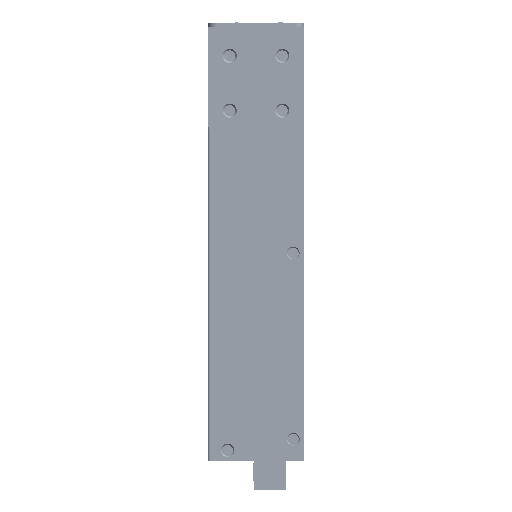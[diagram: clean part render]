
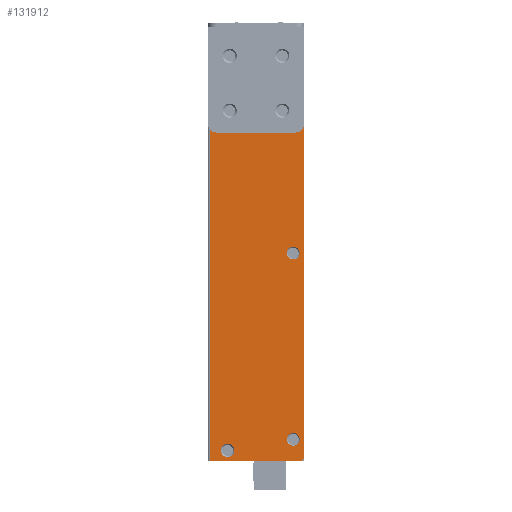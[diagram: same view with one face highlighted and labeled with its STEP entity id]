
A CAD part, left-side view. The second image highlights one B-rep face of the part: STEP entity #131912.
In plain terms, the highlighted planar face has unit normal (-1, 0, 0).
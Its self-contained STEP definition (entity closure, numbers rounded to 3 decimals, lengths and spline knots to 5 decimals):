
#2957=CIRCLE('',#140065,0.0022);
#2963=CIRCLE('',#140076,0.0022);
#2966=CIRCLE('',#140081,0.0031);
#2969=CIRCLE('',#140086,0.0029);
#2972=CIRCLE('',#140091,0.0029);
#2975=CIRCLE('',#140096,0.0029);
#2977=CIRCLE('',#140099,0.002);
#2979=CIRCLE('',#140102,0.002);
#2981=CIRCLE('',#140108,0.002);
#8053=ORIENTED_EDGE('',*,*,#46823,.F.);
#8054=ORIENTED_EDGE('',*,*,#46829,.F.);
#8055=ORIENTED_EDGE('',*,*,#46832,.F.);
#8056=ORIENTED_EDGE('',*,*,#46835,.F.);
#8057=ORIENTED_EDGE('',*,*,#46838,.F.);
#8058=ORIENTED_EDGE('',*,*,#46841,.F.);
#8059=ORIENTED_EDGE('',*,*,#46843,.F.);
#8060=ORIENTED_EDGE('',*,*,#46845,.F.);
#8061=ORIENTED_EDGE('',*,*,#46854,.F.);
#8062=ORIENTED_EDGE('',*,*,#46850,.F.);
#8063=ORIENTED_EDGE('',*,*,#46846,.T.);
#8064=ORIENTED_EDGE('',*,*,#46859,.F.);
#8065=ORIENTED_EDGE('',*,*,#46860,.F.);
#8066=ORIENTED_EDGE('',*,*,#46861,.T.);
#8067=ORIENTED_EDGE('',*,*,#46862,.F.);
#8068=ORIENTED_EDGE('',*,*,#46858,.F.);
#46823=EDGE_CURVE('',#66306,#66306,#2957,.T.);
#46829=EDGE_CURVE('',#66312,#66312,#2963,.T.);
#46832=EDGE_CURVE('',#66315,#66315,#2966,.T.);
#46835=EDGE_CURVE('',#66318,#66318,#2969,.T.);
#46838=EDGE_CURVE('',#66321,#66321,#2972,.T.);
#46841=EDGE_CURVE('',#66324,#66324,#2975,.T.);
#46843=EDGE_CURVE('',#66326,#66326,#2977,.T.);
#46845=EDGE_CURVE('',#66328,#66328,#2979,.T.);
#46846=EDGE_CURVE('',#66329,#66330,#79338,.T.);
#46850=EDGE_CURVE('',#66329,#66333,#79342,.T.);
#46854=EDGE_CURVE('',#66333,#66336,#79346,.T.);
#46858=EDGE_CURVE('',#66336,#66338,#2981,.T.);
#46859=EDGE_CURVE('',#66339,#66330,#79349,.T.);
#46860=EDGE_CURVE('',#66340,#66339,#79350,.T.);
#46861=EDGE_CURVE('',#66340,#66341,#79351,.T.);
#46862=EDGE_CURVE('',#66338,#66341,#79352,.T.);
#66306=VERTEX_POINT('',#190900);
#66312=VERTEX_POINT('',#190917);
#66315=VERTEX_POINT('',#190925);
#66318=VERTEX_POINT('',#190933);
#66321=VERTEX_POINT('',#190941);
#66324=VERTEX_POINT('',#190949);
#66326=VERTEX_POINT('',#190954);
#66328=VERTEX_POINT('',#190959);
#66329=VERTEX_POINT('',#190962);
#66330=VERTEX_POINT('',#190963);
#66333=VERTEX_POINT('',#190971);
#66336=VERTEX_POINT('',#190979);
#66338=VERTEX_POINT('',#190984);
#66339=VERTEX_POINT('',#190989);
#66340=VERTEX_POINT('',#190991);
#66341=VERTEX_POINT('',#190993);
#79338=LINE('',#190961,#94568);
#79342=LINE('',#190970,#94572);
#79346=LINE('',#190978,#94576);
#79349=LINE('',#190988,#94579);
#79350=LINE('',#190990,#94580);
#79351=LINE('',#190992,#94581);
#79352=LINE('',#190994,#94582);
#94568=VECTOR('',#152467,1.);
#94572=VECTOR('',#152473,1.);
#94576=VECTOR('',#152479,1.);
#94579=VECTOR('',#152490,1.);
#94580=VECTOR('',#152491,1.);
#94581=VECTOR('',#152492,1.);
#94582=VECTOR('',#152493,1.);
#109762=EDGE_LOOP('',(#8053));
#109763=EDGE_LOOP('',(#8054));
#109764=EDGE_LOOP('',(#8055));
#109765=EDGE_LOOP('',(#8056));
#109766=EDGE_LOOP('',(#8057));
#109767=EDGE_LOOP('',(#8058));
#109768=EDGE_LOOP('',(#8059));
#109769=EDGE_LOOP('',(#8060));
#109770=EDGE_LOOP('',(#8061,#8062,#8063,#8064,#8065,#8066,#8067,#8068));
#118340=FACE_BOUND('',#109762,.T.);
#118341=FACE_BOUND('',#109763,.T.);
#118342=FACE_BOUND('',#109764,.T.);
#118343=FACE_BOUND('',#109765,.T.);
#118344=FACE_BOUND('',#109766,.T.);
#118345=FACE_BOUND('',#109767,.T.);
#118346=FACE_BOUND('',#109768,.T.);
#118347=FACE_BOUND('',#109769,.T.);
#118348=FACE_BOUND('',#109770,.T.);
#126747=PLANE('',#140109);
#131912=ADVANCED_FACE('',(#118340,#118341,#118342,#118343,#118344,#118345,
#118346,#118347,#118348),#126747,.T.);
#140065=AXIS2_PLACEMENT_3D('',#190899,#152389,#152390);
#140076=AXIS2_PLACEMENT_3D('',#190916,#152411,#152412);
#140081=AXIS2_PLACEMENT_3D('',#190924,#152421,#152422);
#140086=AXIS2_PLACEMENT_3D('',#190932,#152431,#152432);
#140091=AXIS2_PLACEMENT_3D('',#190940,#152441,#152442);
#140096=AXIS2_PLACEMENT_3D('',#190948,#152451,#152452);
#140099=AXIS2_PLACEMENT_3D('',#190953,#152457,#152458);
#140102=AXIS2_PLACEMENT_3D('',#190958,#152463,#152464);
#140108=AXIS2_PLACEMENT_3D('',#190986,#152486,#152487);
#140109=AXIS2_PLACEMENT_3D('',#190987,#152488,#152489);
#152389=DIRECTION('',(-1.,0.,0.));
#152390=DIRECTION('',(0.,0.,-1.));
#152411=DIRECTION('',(-1.,0.,0.));
#152412=DIRECTION('',(0.,0.,-1.));
#152421=DIRECTION('',(-1.,0.,0.));
#152422=DIRECTION('',(0.,0.,-1.));
#152431=DIRECTION('',(-1.,0.,0.));
#152432=DIRECTION('',(0.,0.,1.));
#152441=DIRECTION('',(-1.,0.,0.));
#152442=DIRECTION('',(0.,0.,1.));
#152451=DIRECTION('',(-1.,0.,0.));
#152452=DIRECTION('',(0.,0.,-1.));
#152457=DIRECTION('',(-1.,0.,0.));
#152458=DIRECTION('',(0.,0.,1.));
#152463=DIRECTION('',(-1.,0.,0.));
#152464=DIRECTION('',(0.,0.,1.));
#152467=DIRECTION('',(0.,0.,1.));
#152473=DIRECTION('',(0.,-1.,0.));
#152479=DIRECTION('',(0.,0.,-1.));
#152486=DIRECTION('',(1.,0.,0.));
#152487=DIRECTION('',(0.,-1.,0.));
#152488=DIRECTION('',(-1.,0.,0.));
#152489=DIRECTION('',(0.,0.,-1.));
#152490=DIRECTION('',(0.,-0.707,-0.707));
#152491=DIRECTION('',(0.,-1.,0.));
#152492=DIRECTION('',(0.,0.,-1.));
#152493=DIRECTION('',(0.,1.,0.));
#190899=CARTESIAN_POINT('',(-0.22,0.034,0.065));
#190900=CARTESIAN_POINT('',(-0.22,0.034,0.0628));
#190916=CARTESIAN_POINT('',(-0.22,0.034,0.09));
#190917=CARTESIAN_POINT('',(-0.22,0.034,0.0878));
#190924=CARTESIAN_POINT('',(-0.22,0.035,-0.09));
#190925=CARTESIAN_POINT('',(-0.22,0.035,-0.0931));
#190932=CARTESIAN_POINT('',(-0.22,0.005,-0.085));
#190933=CARTESIAN_POINT('',(-0.22,0.005,-0.0821));
#190940=CARTESIAN_POINT('',(-0.22,0.005,0.));
#190941=CARTESIAN_POINT('',(-0.22,0.005,0.0029));
#190948=CARTESIAN_POINT('',(-0.22,0.005,0.085));
#190949=CARTESIAN_POINT('',(-0.22,0.005,0.0821));
#190953=CARTESIAN_POINT('',(-0.22,0.01,0.09));
#190954=CARTESIAN_POINT('',(-0.22,0.01,0.092));
#190958=CARTESIAN_POINT('',(-0.22,0.01,0.065));
#190959=CARTESIAN_POINT('',(-0.22,0.01,0.067));
#190961=CARTESIAN_POINT('',(-0.22,0.0011,0.0949));
#190962=CARTESIAN_POINT('',(-0.22,0.0011,0.0949));
#190963=CARTESIAN_POINT('',(-0.22,0.0011,0.1037));
#190970=CARTESIAN_POINT('',(-0.22,0.0011,0.0949));
#190971=CARTESIAN_POINT('',(-0.22,0.,0.0949));
#190978=CARTESIAN_POINT('',(-0.22,0.,0.0949));
#190979=CARTESIAN_POINT('',(-0.22,0.,-0.093));
#190984=CARTESIAN_POINT('',(-0.22,0.002,-0.095));
#190986=CARTESIAN_POINT('',(-0.22,0.002,-0.093));
#190987=CARTESIAN_POINT('',(-0.22,0.044,-0.095));
#190988=CARTESIAN_POINT('',(-0.22,0.0014,0.104));
#190989=CARTESIAN_POINT('',(-0.22,0.00139,0.10399));
#190990=CARTESIAN_POINT('',(-0.22,0.0215,0.10399));
#190991=CARTESIAN_POINT('',(-0.22,0.043,0.10399));
#190992=CARTESIAN_POINT('',(-0.22,0.043,0.104));
#190993=CARTESIAN_POINT('',(-0.22,0.043,-0.095));
#190994=CARTESIAN_POINT('',(-0.22,0.002,-0.095));
